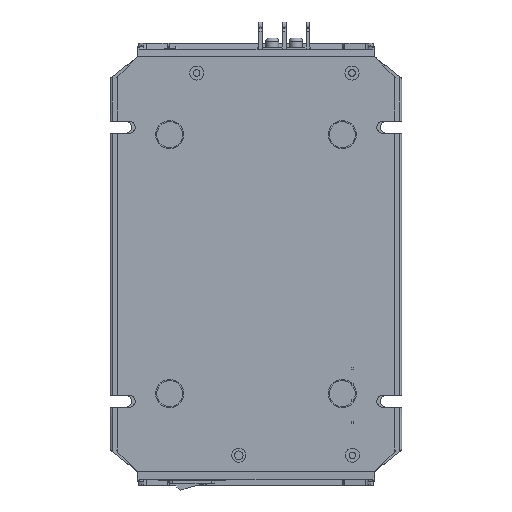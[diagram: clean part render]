
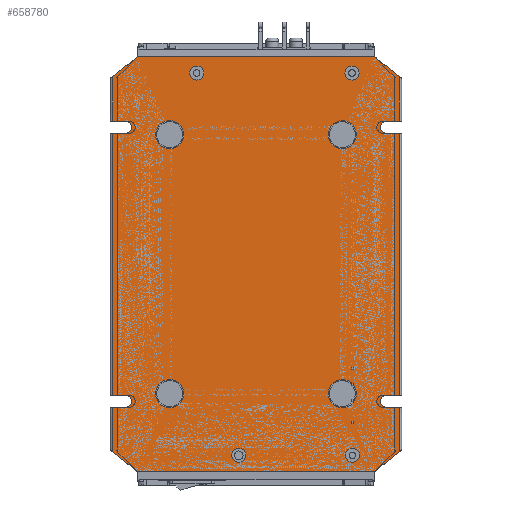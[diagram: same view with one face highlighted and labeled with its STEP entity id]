
A CAD part, front view. The second image highlights one B-rep face of the part: STEP entity #658780.
In plain terms, the highlighted planar face has unit normal (0, -1, 0).
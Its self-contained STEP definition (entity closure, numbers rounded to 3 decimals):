
#656110=CARTESIAN_POINT('',(2120.876,32.204,384.774));
#656120=DIRECTION('',(0.,1.,-0.));
#656130=DIRECTION('',(-1.,0.,0.));
#656140=AXIS2_PLACEMENT_3D('',#656110,#656120,#656130);
#656150=PLANE('',#656140);
#656160=CARTESIAN_POINT('',(2101.376,32.204,210.4));
#656170=DIRECTION('',(0.,-1.,0.));
#656180=DIRECTION('',(1.,0.,0.));
#656190=AXIS2_PLACEMENT_3D('',#656160,#656170,#656180);
#656200=CIRCLE('',#656190,6.5);
#656210=CARTESIAN_POINT('',(2107.876,32.204,210.4));
#656220=VERTEX_POINT('',#656210);
#656230=CARTESIAN_POINT('',(2094.876,32.204,210.4));
#656240=VERTEX_POINT('',#656230);
#656250=EDGE_CURVE('',#656220,#656240,#656200,.T.);
#656260=ORIENTED_EDGE('',*,*,#656250,.F.);
#656270=EDGE_CURVE('',#656240,#656220,#656200,.T.);
#656280=ORIENTED_EDGE('',*,*,#656270,.F.);
#656290=EDGE_LOOP('',(#656280,#656260));
#656300=FACE_BOUND('',#656290,.T.);
#656310=CARTESIAN_POINT('',(2021.376,32.204,330.4));
#656320=DIRECTION('',(0.,-1.,0.));
#656330=DIRECTION('',(1.,0.,0.));
#656340=AXIS2_PLACEMENT_3D('',#656310,#656320,#656330);
#656350=CIRCLE('',#656340,6.5);
#656360=CARTESIAN_POINT('',(2015.747,32.204,333.65));
#656370=VERTEX_POINT('',#656360);
#656380=CARTESIAN_POINT('',(2014.876,32.204,330.4));
#656390=VERTEX_POINT('',#656380);
#656400=EDGE_CURVE('',#656370,#656390,#656350,.T.);
#656410=ORIENTED_EDGE('',*,*,#656400,.F.);
#656420=CARTESIAN_POINT('',(2027.876,32.204,330.4));
#656430=VERTEX_POINT('',#656420);
#656440=EDGE_CURVE('',#656390,#656430,#656350,.T.);
#656450=ORIENTED_EDGE('',*,*,#656440,.F.);
#656460=EDGE_CURVE('',#656430,#656370,#656350,.T.);
#656470=ORIENTED_EDGE('',*,*,#656460,.F.);
#656480=EDGE_LOOP('',(#656470,#656450,#656410));
#656490=FACE_BOUND('',#656480,.T.);
#656500=CARTESIAN_POINT('',(2101.376,32.204,330.4));
#656510=DIRECTION('',(0.,-1.,0.));
#656520=DIRECTION('',(1.,0.,0.));
#656530=AXIS2_PLACEMENT_3D('',#656500,#656510,#656520);
#656540=CIRCLE('',#656530,6.5);
#656550=CARTESIAN_POINT('',(2107.876,32.204,330.4));
#656560=VERTEX_POINT('',#656550);
#656570=CARTESIAN_POINT('',(2094.876,32.204,330.4));
#656580=VERTEX_POINT('',#656570);
#656590=EDGE_CURVE('',#656560,#656580,#656540,.T.);
#656600=ORIENTED_EDGE('',*,*,#656590,.F.);
#656610=EDGE_CURVE('',#656580,#656560,#656540,.T.);
#656620=ORIENTED_EDGE('',*,*,#656610,.F.);
#656630=EDGE_LOOP('',(#656620,#656600));
#656640=FACE_BOUND('',#656630,.T.);
#656650=CARTESIAN_POINT('',(2021.376,32.204,210.4));
#656660=DIRECTION('',(0.,-1.,0.));
#656670=DIRECTION('',(1.,0.,0.));
#656680=AXIS2_PLACEMENT_3D('',#656650,#656660,#656670);
#656690=CIRCLE('',#656680,6.5);
#656700=CARTESIAN_POINT('',(2027.876,32.204,210.4));
#656710=VERTEX_POINT('',#656700);
#656720=CARTESIAN_POINT('',(2014.876,32.204,210.4));
#656730=VERTEX_POINT('',#656720);
#656740=EDGE_CURVE('',#656710,#656730,#656690,.T.);
#656750=ORIENTED_EDGE('',*,*,#656740,.F.);
#656760=EDGE_CURVE('',#656730,#656710,#656690,.T.);
#656770=ORIENTED_EDGE('',*,*,#656760,.F.);
#656780=EDGE_LOOP('',(#656770,#656750));
#656790=FACE_BOUND('',#656780,.T.);
#656800=CARTESIAN_POINT('',(0.,32.204,-1518.801));
#656810=DIRECTION('',(-0.781,0.,-0.625));
#656820=VECTOR('',#656810,1.);
#656830=LINE('',#656800,#656820);
#656840=CARTESIAN_POINT('',(2127.876,32.204,183.5));
#656850=VERTEX_POINT('',#656840);
#656860=CARTESIAN_POINT('',(2116.376,32.204,174.3));
#656870=VERTEX_POINT('',#656860);
#656880=EDGE_CURVE('',#656850,#656870,#656830,.T.);
#656890=ORIENTED_EDGE('',*,*,#656880,.F.);
#656900=CARTESIAN_POINT('',(0.,32.204,174.3));
#656910=DIRECTION('',(-1.,0.,0.));
#656920=VECTOR('',#656910,1.);
#656930=LINE('',#656900,#656920);
#656940=CARTESIAN_POINT('',(2006.376,32.204,174.3));
#656950=VERTEX_POINT('',#656940);
#656960=EDGE_CURVE('',#656870,#656950,#656930,.T.);
#656970=ORIENTED_EDGE('',*,*,#656960,.F.);
#656980=CARTESIAN_POINT('',(0.,32.204,1779.401));
#656990=DIRECTION('',(-0.781,0.,0.625));
#657000=VECTOR('',#656990,1.);
#657010=LINE('',#656980,#657000);
#657020=CARTESIAN_POINT('',(1994.876,32.204,183.5));
#657030=VERTEX_POINT('',#657020);
#657040=EDGE_CURVE('',#656950,#657030,#657010,.T.);
#657050=ORIENTED_EDGE('',*,*,#657040,.F.);
#657060=CARTESIAN_POINT('',(1994.876,32.204,0.));
#657070=DIRECTION('',(0.,0.,1.));
#657080=VECTOR('',#657070,1.);
#657090=LINE('',#657060,#657080);
#657100=CARTESIAN_POINT('',(1994.876,32.204,204.15));
#657110=VERTEX_POINT('',#657100);
#657120=EDGE_CURVE('',#657030,#657110,#657090,.T.);
#657130=ORIENTED_EDGE('',*,*,#657120,.F.);
#657140=CARTESIAN_POINT('',(0.,32.204,204.15));
#657150=DIRECTION('',(1.,0.,0.));
#657160=VECTOR('',#657150,1.);
#657170=LINE('',#657140,#657160);
#657180=CARTESIAN_POINT('',(2000.876,32.204,204.15));
#657190=VERTEX_POINT('',#657180);
#657200=EDGE_CURVE('',#657110,#657190,#657170,.T.);
#657210=ORIENTED_EDGE('',*,*,#657200,.F.);
#657220=CARTESIAN_POINT('',(2000.876,32.204,206.9));
#657230=DIRECTION('',(0.,1.,0.));
#657240=DIRECTION('',(0.,0.,1.));
#657250=AXIS2_PLACEMENT_3D('',#657220,#657230,#657240);
#657260=CIRCLE('',#657250,2.75);
#657270=CARTESIAN_POINT('',(2000.876,32.204,209.65));
#657280=VERTEX_POINT('',#657270);
#657290=EDGE_CURVE('',#657280,#657190,#657260,.T.);
#657300=ORIENTED_EDGE('',*,*,#657290,.T.);
#657310=CARTESIAN_POINT('',(0.,32.204,209.65));
#657320=DIRECTION('',(-1.,0.,0.));
#657330=VECTOR('',#657320,1.);
#657340=LINE('',#657310,#657330);
#657350=CARTESIAN_POINT('',(1994.876,32.204,209.65));
#657360=VERTEX_POINT('',#657350);
#657370=EDGE_CURVE('',#657280,#657360,#657340,.T.);
#657380=ORIENTED_EDGE('',*,*,#657370,.F.);
#657390=CARTESIAN_POINT('',(1994.876,32.204,0.));
#657400=DIRECTION('',(0.,0.,1.));
#657410=VECTOR('',#657400,1.);
#657420=LINE('',#657390,#657410);
#657430=CARTESIAN_POINT('',(1994.876,32.204,331.15));
#657440=VERTEX_POINT('',#657430);
#657450=EDGE_CURVE('',#657360,#657440,#657420,.T.);
#657460=ORIENTED_EDGE('',*,*,#657450,.F.);
#657470=CARTESIAN_POINT('',(0.,32.204,331.15));
#657480=DIRECTION('',(1.,0.,0.));
#657490=VECTOR('',#657480,1.);
#657500=LINE('',#657470,#657490);
#657510=CARTESIAN_POINT('',(2000.876,32.204,331.15));
#657520=VERTEX_POINT('',#657510);
#657530=EDGE_CURVE('',#657440,#657520,#657500,.T.);
#657540=ORIENTED_EDGE('',*,*,#657530,.F.);
#657550=CARTESIAN_POINT('',(2000.876,32.204,333.9));
#657560=DIRECTION('',(0.,1.,0.));
#657570=DIRECTION('',(0.,0.,1.));
#657580=AXIS2_PLACEMENT_3D('',#657550,#657560,#657570);
#657590=CIRCLE('',#657580,2.75);
#657600=CARTESIAN_POINT('',(2000.876,32.204,336.65));
#657610=VERTEX_POINT('',#657600);
#657620=EDGE_CURVE('',#657610,#657520,#657590,.T.);
#657630=ORIENTED_EDGE('',*,*,#657620,.T.);
#657640=CARTESIAN_POINT('',(0.,32.204,336.65));
#657650=DIRECTION('',(-1.,0.,0.));
#657660=VECTOR('',#657650,1.);
#657670=LINE('',#657640,#657660);
#657680=CARTESIAN_POINT('',(1994.876,32.204,336.65));
#657690=VERTEX_POINT('',#657680);
#657700=EDGE_CURVE('',#657610,#657690,#657670,.T.);
#657710=ORIENTED_EDGE('',*,*,#657700,.F.);
#657720=CARTESIAN_POINT('',(1994.876,32.204,0.));
#657730=DIRECTION('',(0.,0.,1.));
#657740=VECTOR('',#657730,1.);
#657750=LINE('',#657720,#657740);
#657760=CARTESIAN_POINT('',(1994.876,32.204,357.3));
#657770=VERTEX_POINT('',#657760);
#657780=EDGE_CURVE('',#657690,#657770,#657750,.T.);
#657790=ORIENTED_EDGE('',*,*,#657780,.F.);
#657800=CARTESIAN_POINT('',(0.,32.204,-1238.601));
#657810=DIRECTION('',(0.781,0.,0.625));
#657820=VECTOR('',#657810,1.);
#657830=LINE('',#657800,#657820);
#657840=CARTESIAN_POINT('',(2006.376,32.204,366.5));
#657850=VERTEX_POINT('',#657840);
#657860=EDGE_CURVE('',#657770,#657850,#657830,.T.);
#657870=ORIENTED_EDGE('',*,*,#657860,.F.);
#657880=CARTESIAN_POINT('',(0.,32.204,366.5));
#657890=DIRECTION('',(1.,0.,0.));
#657900=VECTOR('',#657890,1.);
#657910=LINE('',#657880,#657900);
#657920=CARTESIAN_POINT('',(2116.376,32.204,366.5));
#657930=VERTEX_POINT('',#657920);
#657940=EDGE_CURVE('',#657850,#657930,#657910,.T.);
#657950=ORIENTED_EDGE('',*,*,#657940,.F.);
#657960=CARTESIAN_POINT('',(0.,32.204,2059.601));
#657970=DIRECTION('',(0.781,0.,-0.625));
#657980=VECTOR('',#657970,1.);
#657990=LINE('',#657960,#657980);
#658000=CARTESIAN_POINT('',(2127.876,32.204,357.3));
#658010=VERTEX_POINT('',#658000);
#658020=EDGE_CURVE('',#657930,#658010,#657990,.T.);
#658030=ORIENTED_EDGE('',*,*,#658020,.F.);
#658040=CARTESIAN_POINT('',(2127.876,32.204,0.));
#658050=DIRECTION('',(0.,0.,-1.));
#658060=VECTOR('',#658050,1.);
#658070=LINE('',#658040,#658060);
#658080=CARTESIAN_POINT('',(2127.876,32.204,336.65));
#658090=VERTEX_POINT('',#658080);
#658100=EDGE_CURVE('',#658010,#658090,#658070,.T.);
#658110=ORIENTED_EDGE('',*,*,#658100,.F.);
#658120=CARTESIAN_POINT('',(0.,32.204,336.65));
#658130=DIRECTION('',(-1.,0.,0.));
#658140=VECTOR('',#658130,1.);
#658150=LINE('',#658120,#658140);
#658160=CARTESIAN_POINT('',(2121.876,32.204,336.65));
#658170=VERTEX_POINT('',#658160);
#658180=EDGE_CURVE('',#658090,#658170,#658150,.T.);
#658190=ORIENTED_EDGE('',*,*,#658180,.F.);
#658200=CARTESIAN_POINT('',(2121.876,32.204,333.9));
#658210=DIRECTION('',(0.,-1.,0.));
#658220=DIRECTION('',(0.,0.,1.));
#658230=AXIS2_PLACEMENT_3D('',#658200,#658210,#658220);
#658240=CIRCLE('',#658230,2.75);
#658250=CARTESIAN_POINT('',(2121.876,32.204,331.15));
#658260=VERTEX_POINT('',#658250);
#658270=EDGE_CURVE('',#658170,#658260,#658240,.T.);
#658280=ORIENTED_EDGE('',*,*,#658270,.F.);
#658290=CARTESIAN_POINT('',(0.,32.204,331.15));
#658300=DIRECTION('',(1.,0.,0.));
#658310=VECTOR('',#658300,1.);
#658320=LINE('',#658290,#658310);
#658330=CARTESIAN_POINT('',(2127.876,32.204,331.15));
#658340=VERTEX_POINT('',#658330);
#658350=EDGE_CURVE('',#658260,#658340,#658320,.T.);
#658360=ORIENTED_EDGE('',*,*,#658350,.F.);
#658370=CARTESIAN_POINT('',(2127.876,32.204,0.));
#658380=DIRECTION('',(0.,0.,-1.));
#658390=VECTOR('',#658380,1.);
#658400=LINE('',#658370,#658390);
#658410=CARTESIAN_POINT('',(2127.876,32.204,209.65));
#658420=VERTEX_POINT('',#658410);
#658430=EDGE_CURVE('',#658340,#658420,#658400,.T.);
#658440=ORIENTED_EDGE('',*,*,#658430,.F.);
#658450=CARTESIAN_POINT('',(0.,32.204,209.65));
#658460=DIRECTION('',(-1.,0.,0.));
#658470=VECTOR('',#658460,1.);
#658480=LINE('',#658450,#658470);
#658490=CARTESIAN_POINT('',(2121.876,32.204,209.65));
#658500=VERTEX_POINT('',#658490);
#658510=EDGE_CURVE('',#658420,#658500,#658480,.T.);
#658520=ORIENTED_EDGE('',*,*,#658510,.F.);
#658530=CARTESIAN_POINT('',(2121.876,32.204,206.9));
#658540=DIRECTION('',(0.,-1.,0.));
#658550=DIRECTION('',(0.,0.,1.));
#658560=AXIS2_PLACEMENT_3D('',#658530,#658540,#658550);
#658570=CIRCLE('',#658560,2.75);
#658580=CARTESIAN_POINT('',(2121.876,32.204,204.15));
#658590=VERTEX_POINT('',#658580);
#658600=EDGE_CURVE('',#658500,#658590,#658570,.T.);
#658610=ORIENTED_EDGE('',*,*,#658600,.F.);
#658620=CARTESIAN_POINT('',(0.,32.204,204.15));
#658630=DIRECTION('',(1.,0.,0.));
#658640=VECTOR('',#658630,1.);
#658650=LINE('',#658620,#658640);
#658660=CARTESIAN_POINT('',(2127.876,32.204,204.15));
#658670=VERTEX_POINT('',#658660);
#658680=EDGE_CURVE('',#658590,#658670,#658650,.T.);
#658690=ORIENTED_EDGE('',*,*,#658680,.F.);
#658700=CARTESIAN_POINT('',(2127.876,32.204,0.));
#658710=DIRECTION('',(0.,0.,-1.));
#658720=VECTOR('',#658710,1.);
#658730=LINE('',#658700,#658720);
#658740=EDGE_CURVE('',#658670,#656850,#658730,.T.);
#658750=ORIENTED_EDGE('',*,*,#658740,.F.);
#658760=EDGE_LOOP('',(#658750,#658690,#658610,#658520,#658440,#658360,
#658280,#658190,#658110,#658030,#657950,#657870,#657790,#657710,#657630,
#657540,#657460,#657380,#657300,#657210,#657130,#657050,#656970,#656890)
);
#658770=FACE_OUTER_BOUND('',#658760,.T.);
#658780=ADVANCED_FACE('',(#656300,#656490,#656640,#656790,#658770),
#656150,.F.);
